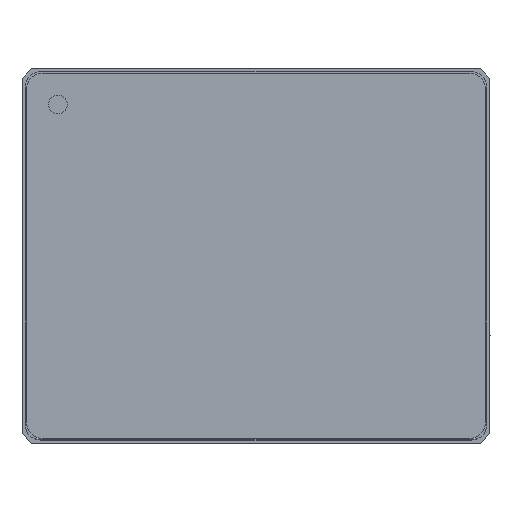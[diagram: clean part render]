
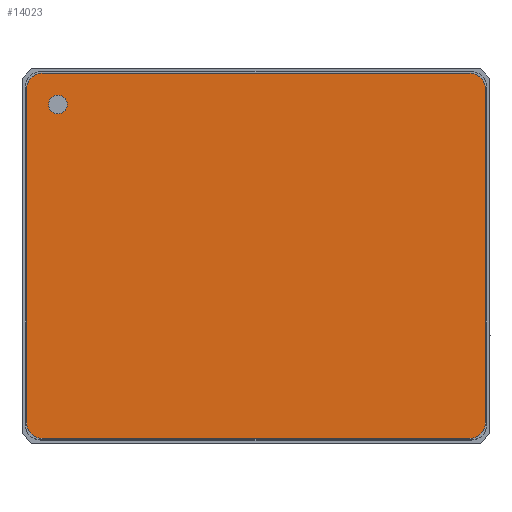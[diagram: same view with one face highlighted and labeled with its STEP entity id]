
A CAD part, top view. The second image highlights one B-rep face of the part: STEP entity #14023.
In plain terms, the highlighted planar face has unit normal (0, 0, 1) as drawn and (0, 0, -1) by its records, which use the part's own axes.
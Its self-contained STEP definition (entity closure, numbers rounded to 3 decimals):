
#166 = ORIENTED_EDGE ( 'NONE', *, *, #2555, .F. ) ;
#195 = EDGE_CURVE ( 'NONE', #2479, #16133, #407, .T. ) ;
#255 = FACE_BOUND ( 'NONE', #15377, .T. ) ;
#407 = CIRCLE ( 'NONE', #415, 0.3 ) ;
#415 = AXIS2_PLACEMENT_3D ( 'NONE', #1404, #2769, #10296 ) ;
#621 = VERTEX_POINT ( 'NONE', #4687 ) ;
#1002 = AXIS2_PLACEMENT_3D ( 'NONE', #2883, #11818, #1769 ) ;
#1404 = CARTESIAN_POINT ( 'NONE',  ( 46.848, 41.022, 0. ) ) ;
#1567 = VERTEX_POINT ( 'NONE', #7005 ) ;
#1769 = DIRECTION ( 'NONE',  ( -1., 0., 0. ) ) ;
#1905 = CARTESIAN_POINT ( 'NONE',  ( 33.148, 30.822, 0. ) ) ;
#2255 = LINE ( 'NONE', #1905, #11022 ) ;
#2294 = CARTESIAN_POINT ( 'NONE',  ( 33.148, 30.822, 0. ) ) ;
#2410 = ORIENTED_EDGE ( 'NONE', *, *, #8062, .F. ) ;
#2479 = VERTEX_POINT ( 'NONE', #3043 ) ;
#2555 = EDGE_CURVE ( 'NONE', #11294, #13821, #10521, .T. ) ;
#2769 = DIRECTION ( 'NONE',  ( 0., 0., -1. ) ) ;
#2883 = CARTESIAN_POINT ( 'NONE',  ( 33.648, 30.822, 0. ) ) ;
#2934 = DIRECTION ( 'NONE',  ( 1., 0., 0. ) ) ;
#2946 = VECTOR ( 'NONE', #7995, 1000. ) ;
#3043 = CARTESIAN_POINT ( 'NONE',  ( 46.548, 41.022, 0. ) ) ;
#3249 = ORIENTED_EDGE ( 'NONE', *, *, #8707, .F. ) ;
#3254 = ORIENTED_EDGE ( 'NONE', *, *, #4606, .F. ) ;
#3393 = CIRCLE ( 'NONE', #1002, 0.5 ) ;
#3404 = CARTESIAN_POINT ( 'NONE',  ( 47.348, 30.322, 0. ) ) ;
#3629 = VERTEX_POINT ( 'NONE', #7407 ) ;
#4250 = CARTESIAN_POINT ( 'NONE',  ( 33.648, 41.522, 0. ) ) ;
#4269 = DIRECTION ( 'NONE',  ( 0., 0., -1. ) ) ;
#4309 = LINE ( 'NONE', #10334, #2946 ) ;
#4438 = ORIENTED_EDGE ( 'NONE', *, *, #13192, .F. ) ;
#4528 = VERTEX_POINT ( 'NONE', #5433 ) ;
#4606 = EDGE_CURVE ( 'NONE', #13821, #14294, #2255, .T. ) ;
#4687 = CARTESIAN_POINT ( 'NONE',  ( 47.848, 41.522, 0. ) ) ;
#4726 = AXIS2_PLACEMENT_3D ( 'NONE', #13115, #15302, #5278 ) ;
#5098 = DIRECTION ( 'NONE',  ( 0., 0., -1. ) ) ;
#5163 = CARTESIAN_POINT ( 'NONE',  ( 46.848, 41.022, 0. ) ) ;
#5214 = EDGE_CURVE ( 'NONE', #14294, #4528, #3393, .T. ) ;
#5278 = DIRECTION ( 'NONE',  ( -1., 0., 0. ) ) ;
#5321 = CARTESIAN_POINT ( 'NONE',  ( 47.348, 41.522, 0. ) ) ;
#5433 = CARTESIAN_POINT ( 'NONE',  ( 33.648, 30.322, 0. ) ) ;
#5528 = VERTEX_POINT ( 'NONE', #3404 ) ;
#5586 = PLANE ( 'NONE',  #15890 ) ;
#6185 = VECTOR ( 'NONE', #13405, 1000. ) ;
#6241 = LINE ( 'NONE', #13911, #12467 ) ;
#6598 = CIRCLE ( 'NONE', #4726, 0.5 ) ;
#6647 = AXIS2_PLACEMENT_3D ( 'NONE', #4250, #12980, #14218 ) ;
#6783 = EDGE_CURVE ( 'NONE', #3629, #11294, #4309, .T. ) ;
#6788 = DIRECTION ( 'NONE',  ( -1., 0., 0. ) ) ;
#7005 = CARTESIAN_POINT ( 'NONE',  ( 47.848, 30.822, 0. ) ) ;
#7407 = CARTESIAN_POINT ( 'NONE',  ( 47.348, 42.022, 0. ) ) ;
#7514 = ORIENTED_EDGE ( 'NONE', *, *, #6783, .F. ) ;
#7995 = DIRECTION ( 'NONE',  ( -1., 0., 0. ) ) ;
#8062 = EDGE_CURVE ( 'NONE', #4528, #5528, #6241, .T. ) ;
#8082 = DIRECTION ( 'NONE',  ( 0., -1., 0. ) ) ;
#8087 = CARTESIAN_POINT ( 'NONE',  ( 33.648, 41.522, 0. ) ) ;
#8641 = CARTESIAN_POINT ( 'NONE',  ( 47.148, 41.022, 0. ) ) ;
#8707 = EDGE_CURVE ( 'NONE', #5528, #1567, #6598, .T. ) ;
#8937 = DIRECTION ( 'NONE',  ( 0., 0., 1. ) ) ;
#8981 = DIRECTION ( 'NONE',  ( -1., 0., 0. ) ) ;
#9370 = CARTESIAN_POINT ( 'NONE',  ( 33.648, 42.022, 0. ) ) ;
#10000 = EDGE_LOOP ( 'NONE', ( #166, #7514, #14286, #4438, #3249, #2410, #10601, #3254 ) ) ;
#10063 = CARTESIAN_POINT ( 'NONE',  ( 33.148, 41.522, 0. ) ) ;
#10296 = DIRECTION ( 'NONE',  ( -1., 0., 0. ) ) ;
#10334 = CARTESIAN_POINT ( 'NONE',  ( 33.648, 42.022, 0. ) ) ;
#10521 = CIRCLE ( 'NONE', #6647, 0.5 ) ;
#10601 = ORIENTED_EDGE ( 'NONE', *, *, #5214, .F. ) ;
#11022 = VECTOR ( 'NONE', #8082, 1000. ) ;
#11294 = VERTEX_POINT ( 'NONE', #9370 ) ;
#11818 = DIRECTION ( 'NONE',  ( 0., 0., 1. ) ) ;
#12148 = EDGE_CURVE ( 'NONE', #16133, #2479, #15957, .T. ) ;
#12467 = VECTOR ( 'NONE', #2934, 1000. ) ;
#12980 = DIRECTION ( 'NONE',  ( 0., 0., 1. ) ) ;
#13115 = CARTESIAN_POINT ( 'NONE',  ( 47.348, 30.822, 0. ) ) ;
#13192 = EDGE_CURVE ( 'NONE', #1567, #621, #13987, .T. ) ;
#13250 = CARTESIAN_POINT ( 'NONE',  ( 47.848, 41.522, 0. ) ) ;
#13299 = ORIENTED_EDGE ( 'NONE', *, *, #195, .F. ) ;
#13405 = DIRECTION ( 'NONE',  ( 0., 1., 0. ) ) ;
#13821 = VERTEX_POINT ( 'NONE', #10063 ) ;
#13911 = CARTESIAN_POINT ( 'NONE',  ( 47.348, 30.322, 0. ) ) ;
#13956 = FACE_OUTER_BOUND ( 'NONE', #10000, .T. ) ;
#13973 = EDGE_CURVE ( 'NONE', #621, #3629, #14715, .T. ) ;
#13987 = LINE ( 'NONE', #13250, #6185 ) ;
#14023 = ADVANCED_FACE ( 'NONE', ( #255, #13956 ), #5586, .T. ) ;
#14192 = AXIS2_PLACEMENT_3D ( 'NONE', #5163, #5098, #15125 ) ;
#14218 = DIRECTION ( 'NONE',  ( -1., 0., 0. ) ) ;
#14286 = ORIENTED_EDGE ( 'NONE', *, *, #13973, .F. ) ;
#14294 = VERTEX_POINT ( 'NONE', #2294 ) ;
#14373 = ORIENTED_EDGE ( 'NONE', *, *, #12148, .F. ) ;
#14517 = AXIS2_PLACEMENT_3D ( 'NONE', #5321, #8937, #8981 ) ;
#14715 = CIRCLE ( 'NONE', #14517, 0.5 ) ;
#15125 = DIRECTION ( 'NONE',  ( -1., 0., 0. ) ) ;
#15302 = DIRECTION ( 'NONE',  ( 0., 0., 1. ) ) ;
#15377 = EDGE_LOOP ( 'NONE', ( #13299, #14373 ) ) ;
#15890 = AXIS2_PLACEMENT_3D ( 'NONE', #8087, #4269, #6788 ) ;
#15957 = CIRCLE ( 'NONE', #14192, 0.3 ) ;
#16133 = VERTEX_POINT ( 'NONE', #8641 ) ;
